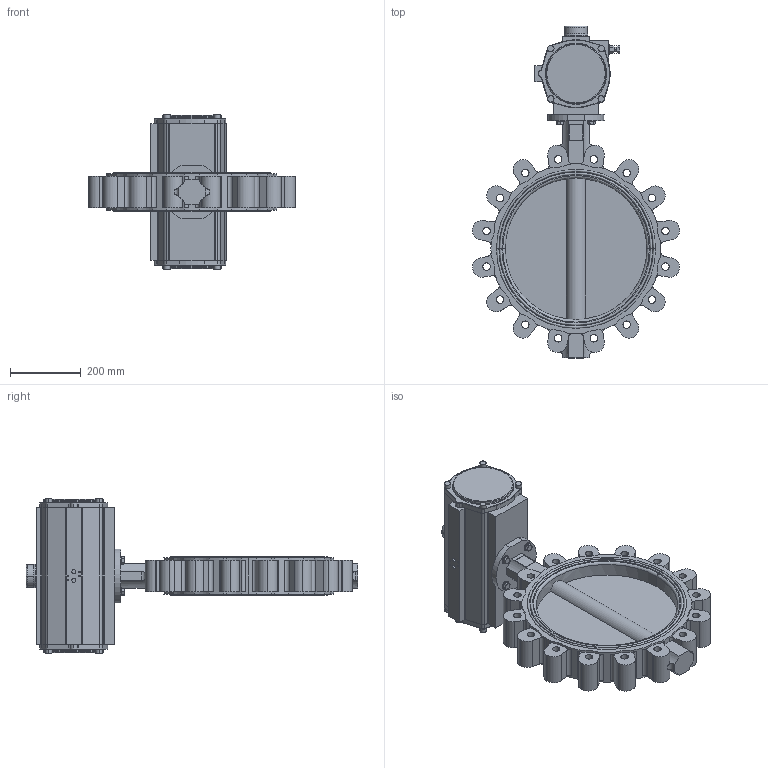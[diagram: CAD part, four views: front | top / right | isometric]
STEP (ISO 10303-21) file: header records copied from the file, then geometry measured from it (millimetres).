
FILE_DESCRIPTION (( 'STEP AP214' ), '1' );
FILE_NAME ('67719.step', '2020-10-26T07:28:19', ( '' ), ( '' ), 'SwSTEP 2.0', 'SolidWorks 2019', '' );
FILE_SCHEMA (( 'AUTOMOTIVE_DESIGN' ));
Length unit declared in the file: millimetre
Products named in the file (6): 6kt-Schr DIN 933_M12x40; 67719; Achtkantreduktion 36-27 mm; DA1200-V36_01; TL20-0400_M01; U-Scheibe DIN 125 A_M12
Assembly tree (11 placements, depth 2):
  67719
    TL20-0400_M01
    DA1200-V36_01
    6kt-Schr DIN 933_M12x40  x4
    U-Scheibe DIN 125 A_M12  x4
    Achtkantreduktion 36-27 mm
Bounding box: 584.62 x 937 x 438.6 mm (x, y, z)
Volume: 28707683.5 mm3; surface area: 1505727.1 mm2
Topology: 13 solids, 13 shells, 827 faces, 2101 edges, 1354 vertices
Faces by surface type: cylinder 389, plane 353, torus 44, cone 41
Entity records: 25810 total; most frequent: CARTESIAN_POINT 4662, DIRECTION 4217, ORIENTED_EDGE 3794, EDGE_CURVE 1897, AXIS2_PLACEMENT_3D 1639, VERTEX_POINT 1234, LINE 939, VECTOR 939
